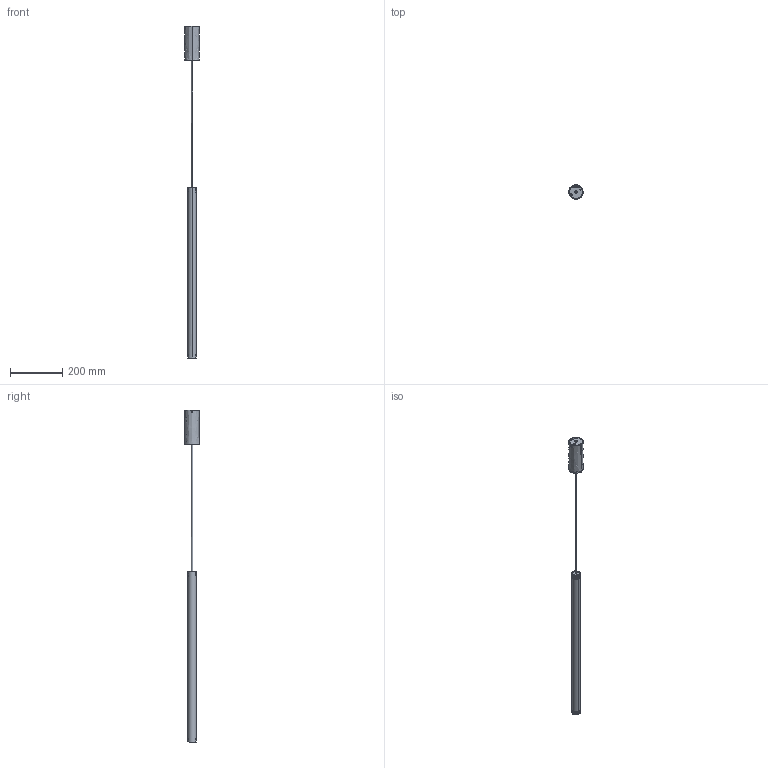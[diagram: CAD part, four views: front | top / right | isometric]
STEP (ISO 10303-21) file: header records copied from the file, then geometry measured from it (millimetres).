
FILE_DESCRIPTION(/* description */ (''),/* implementation_level */ '2;1');
FILE_NAME(/* name */ 'To-be L026__.065',/* time_stamp */ '2025-05-27T16:51:03+02:00',/* author */ (''),/* organization */ (''),/* preprocessor_version */ 'ST-DEVELOPER v16.5',/* originating_system */ '',/* authorisation */ '');
FILE_SCHEMA (('AUTOMOTIVE_DESIGN'));
Length unit declared in the file: millimetre
Products named in the file (11): Document; 3300.0250000.00 (tubo rosone ALL D 55mm sp 2)_3306.0250013.00; 3200.0075000.00 (staffa rosone ACC D 50,7mm H 126,2mm sp 1,2)_3210.00
75000.00 in opera 2; 3200.0021000.00 (testata rosone ACC D 50,7mm sp 1,2)_3201.0021000.00; 3200.0020000.00 (staffa rosone ACC 50x44x125mm sp 1,2)_3209.0020000.0
0 in opera 1; 4504.0004000.00 (passacavo D int. 5,9mm L 10,5mm Steab 5101)_4504.000
4000.00; 5205.0001010.00 (raccordo fresato OTTONE D 12mm sp 3 gambo H 10mm M10
x1 Sacla 13501)_5205.0001010.00; 3400.0080000.00 (cavo FEP+PVC 2x0,75 trasparente)_3401.0080500.00; 3300.0057000.00 (tubo ALL D 32mm sp 2)_3305.0057065.00; 3300.0036000.00 (testata di chiusura OTTONE D 28,9mm H 9mm)_3306.0036
000.00; 3100.0005000.00 (schermo circolare PC sp 0,5)_3104.0005002.00
Assembly tree (10 placements, depth 3):
  Document
    3300.0250000.00 (tubo rosone ALL D 55mm sp 2)_3306.0250013.00
    3200.0075000.00 (staffa rosone ACC D 50,7mm H 126,2mm sp 1,2)_3210.00
75000.00 in opera 2
      3200.0021000.00 (testata rosone ACC D 50,7mm sp 1,2)_3201.0021000.00
      3200.0020000.00 (staffa rosone ACC 50x44x125mm sp 1,2)_3209.0020000.0
0 in opera 1
    4504.0004000.00 (passacavo D int. 5,9mm L 10,5mm Steab 5101)_4504.000
4000.00
    5205.0001010.00 (raccordo fresato OTTONE D 12mm sp 3 gambo H 10mm M10
x1 Sacla 13501)_5205.0001010.00
    3400.0080000.00 (cavo FEP+PVC 2x0,75 trasparente)_3401.0080500.00
    3300.0057000.00 (tubo ALL D 32mm sp 2)_3305.0057065.00
    3300.0036000.00 (testata di chiusura OTTONE D 28,9mm H 9mm)_3306.0036
000.00
    3100.0005000.00 (schermo circolare PC sp 0,5)_3104.0005002.00
Bounding box: 55 x 55 x 1266.9 mm (x, y, z)
Volume: 194732.9 mm3; surface area: 213018.5 mm2
Topology: 11 solids, 11 shells, 475 faces, 1221 edges, 770 vertices
Faces by surface type: bspline 336, plane 139
Entity records: 44645 total; most frequent: CARTESIAN_POINT 37291, ORIENTED_EDGE 2434, EDGE_CURVE 1217, VERTEX_POINT 770, B_SPLINE_CURVE_WITH_KNOTS 638, EDGE_LOOP 525, ADVANCED_FACE 475, FACE_OUTER_BOUND 475
